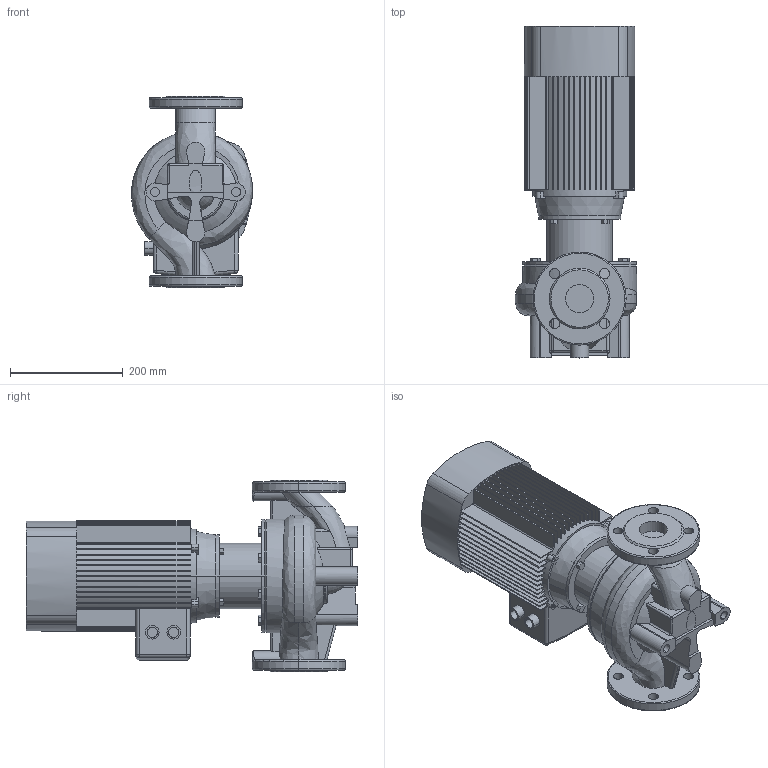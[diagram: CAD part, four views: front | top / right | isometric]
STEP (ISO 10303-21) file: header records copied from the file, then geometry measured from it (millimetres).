
FILE_DESCRIPTION (( 'STEP AP203' ), '1' );
FILE_NAME ('TD50-24G_2.STEP', '2022-05-02T14:55:40', ( '' ), ( '' ), 'SwSTEP 2.0', 'SolidWorks 2019', '' );
FILE_SCHEMA (( 'CONFIG_CONTROL_DESIGN' ));
Length unit declared in the file: millimetre
Products named in the file (4): ED_B14_YE2-100L-2 (3); Fon_50_TD50-24G_2; TD50-24G_2; Pr_ch 50_TD50-24G_2
Assembly tree (3 placements, depth 2):
  TD50-24G_2
    Pr_ch 50_TD50-24G_2
    Fon_50_TD50-24G_2
    ED_B14_YE2-100L-2 (3)
Bounding box: 214.88 x 589 x 340 mm (x, y, z)
Volume: 15155392.4 mm3; surface area: 1096987.9 mm2
Topology: 3 solids, 3 shells, 647 faces, 1762 edges, 1156 vertices
Faces by surface type: plane 425, cylinder 157, bspline 25, torus 23, cone 11, sphere 6
Entity records: 26158 total; most frequent: CARTESIAN_POINT 9217, ORIENTED_EDGE 3520, DIRECTION 3430, EDGE_CURVE 1760, AXIS2_PLACEMENT_3D 1206, VERTEX_POINT 1156, LINE 1018, VECTOR 1018
